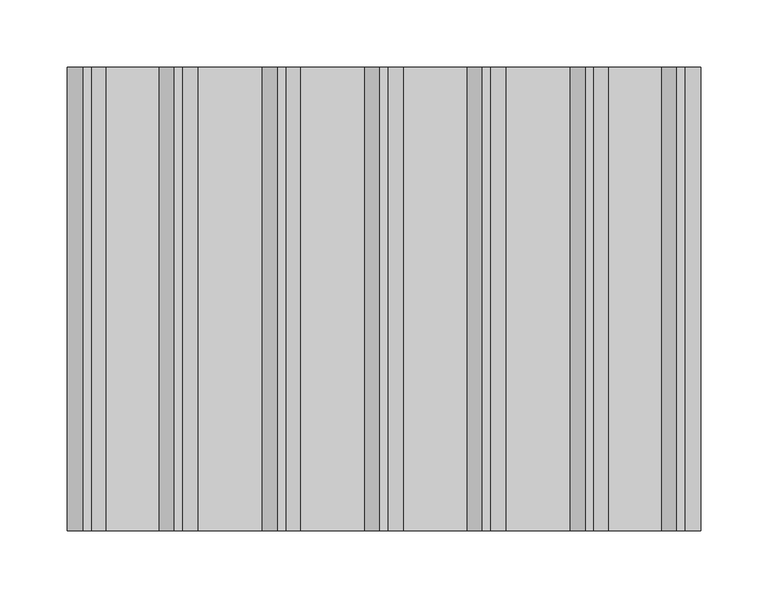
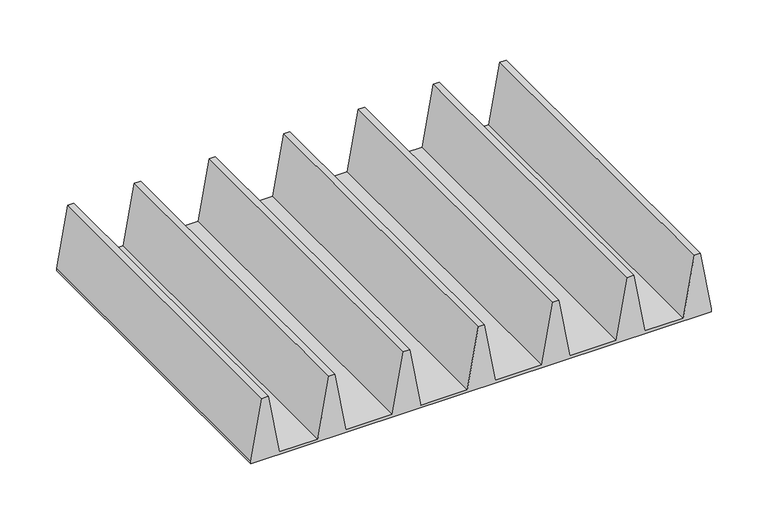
"""IFC4 building model written with IfcOpenShell, lengths in millimetres: furniture geometry."""

import ifcopenshell
import ifcopenshell.guid

model = None  # the IFC model being written
_history = None  # IfcOwnerHistory: only IFC2X3 demands one
_inside = {}  # id of a spatial element -> (the spatial element, [elements in it])
_under = {}  # id of a project, library or spatial element -> (it, [spatial elements below it])
_declared = {}  # id of a project -> (the project, [libraries it declares])
_typed = {}  # id of a type object -> (the type object, [elements of that type])
_made_of = {}  # id of a material, layer set ... -> (it, [elements and type objects made of it])


def new_model(schema):
    """Start an empty IFC model of exactly this schema.

    Asked for "IFC4X3", IfcOpenShell would pick the latest addendum, in which some entities
    have other attributes; the version numbers below select the first issue.
    IFC2X3 requires an IfcOwnerHistory on every rooted entity: one is made here for all.
    """
    global model, _history
    if schema == "IFC4X3":
        model = ifcopenshell.file(schema_version=(4, 3, 0, 0))
    else:
        model = ifcopenshell.file(schema=schema)
    _inside.clear()
    _under.clear()
    _declared.clear()
    _typed.clear()
    _made_of.clear()
    _history = None
    if model.schema == "IFC2X3":
        org = make("IfcOrganization", Name="unknown")
        user = make(
            "IfcPersonAndOrganization",
            ThePerson=make("IfcPerson", FamilyName="unknown"),
            TheOrganization=org,
        )
        app = make(
            "IfcApplication",
            ApplicationDeveloper=org,
            Version="unknown",
            ApplicationFullName="unknown",
            ApplicationIdentifier="unknown",
        )
        _history = make(
            "IfcOwnerHistory",
            OwningUser=user,
            OwningApplication=app,
            ChangeAction="ADDED",
            CreationDate=0,
        )
    return model


def make(cls, **values):
    """One entity of the class cls with the attributes given. An attribute that is None is left unset."""
    return model.create_entity(
        cls, **{name: value for name, value in values.items() if value is not None}
    )


def rooted(cls, **values):
    """An entity with a GlobalId (a new one), such as an element, a storey or a relation."""
    return make(cls, GlobalId=ifcopenshell.guid.new(), OwnerHistory=_history, **values)


def si_unit(unit_type, name, prefix=None):
    """IfcSIUnit, for example si_unit("LENGTHUNIT", "METRE", prefix="MILLI")."""
    return make("IfcSIUnit", UnitType=unit_type, Prefix=prefix, Name=name)


def assignment(units):
    """IfcUnitAssignment: the units of a project."""
    return None if units is None else make("IfcUnitAssignment", Units=units)


def point(xyz):
    """IfcCartesianPoint."""
    return None if xyz is None else make("IfcCartesianPoint", Coordinates=xyz)


def direction(xyz):
    """IfcDirection."""
    return None if xyz is None else make("IfcDirection", DirectionRatios=xyz)


def frame(location, z_axis=None, x_axis=None):
    """IfcAxis2Placement3D, a coordinate frame: its origin and axes. An axis left out is left unset."""
    return make(
        "IfcAxis2Placement3D",
        Location=point(location),
        Axis=direction(z_axis),
        RefDirection=direction(x_axis),
    )


def origin():
    """The frame at (0, 0, 0) with its axes left unset."""
    return frame((0.0, 0.0, 0.0))


def place(relative_to, where):
    """IfcLocalPlacement: puts the frame where relative to a parent placement (None: the world)."""
    return make(
        "IfcLocalPlacement", PlacementRelTo=relative_to, RelativePlacement=where
    )


def context(
    kind, dimensions, precision=None, world=None, true_north=None, identifier=None
):
    """IfcGeometricRepresentationContext, for example the 3D "Model" context."""
    return make(
        "IfcGeometricRepresentationContext",
        ContextIdentifier=identifier,
        ContextType=kind,
        CoordinateSpaceDimension=dimensions,
        Precision=precision,
        WorldCoordinateSystem=world,
        TrueNorth=true_north,
    )


def project(units=None, contexts=None):
    """IfcProject with its units and contexts."""
    return rooted(
        "IfcProject",
        Name="project",
        RepresentationContexts=contexts,
        UnitsInContext=assignment(units),
    )


def spatial(cls, under=None, at=None, **own):
    """A site, building, storey or space (cls), placed at a placement, below another one or the project."""
    s = rooted(cls, ObjectPlacement=at, **own)
    if under is not None:
        _under.setdefault(under.id(), (under, []))[1].append(s)
    return s


def polyline(points):
    """IfcPolyline through the points."""
    return make("IfcPolyline", Points=[point(p) for p in points])


def outline(outer, holes=None, kind="AREA"):
    """IfcArbitraryClosedProfileDef: a profile drawn as a closed curve; with holes, ...WithVoids."""
    if holes is None:
        return make("IfcArbitraryClosedProfileDef", ProfileType=kind, OuterCurve=outer)
    return make(
        "IfcArbitraryProfileDefWithVoids",
        ProfileType=kind,
        OuterCurve=outer,
        InnerCurves=holes,
    )


def extrude(swept, where, along, depth):
    """IfcExtrudedAreaSolid: the profile swept, set in the frame where, extruded along a direction by depth."""
    return make(
        "IfcExtrudedAreaSolid",
        SweptArea=swept,
        Position=where,
        ExtrudedDirection=direction(along),
        Depth=depth,
    )


def shape(context_of_items, identifier, shape_type, items):
    """IfcShapeRepresentation: the items that make up one representation, for example the "Body"."""
    return make(
        "IfcShapeRepresentation",
        ContextOfItems=context_of_items,
        RepresentationIdentifier=identifier,
        RepresentationType=shape_type,
        Items=items,
    )


def source(mapping_origin, context_of_items, identifier, shape_type, items):
    """IfcRepresentationMap: a shape defined once, which mapped items show again and again."""
    return make(
        "IfcRepresentationMap",
        MappingOrigin=mapping_origin,
        MappedRepresentation=shape(context_of_items, identifier, shape_type, items),
    )


def transform(
    local_origin,
    x_axis=None,
    y_axis=None,
    z_axis=None,
    scale=None,
    scale2=None,
    scale3=None,
    uniform=True,
):
    """IfcCartesianTransformationOperator3D, or its non-uniform kind. x_axis, y_axis, z_axis: its Axis1, 2, 3."""
    if uniform:
        return make(
            "IfcCartesianTransformationOperator3D",
            Axis1=direction(x_axis),
            Axis2=direction(y_axis),
            LocalOrigin=point(local_origin),
            Scale=scale,
            Axis3=direction(z_axis),
        )
    return make(
        "IfcCartesianTransformationOperator3DnonUniform",
        Axis1=direction(x_axis),
        Axis2=direction(y_axis),
        LocalOrigin=point(local_origin),
        Scale=scale,
        Axis3=direction(z_axis),
        Scale2=scale2,
        Scale3=scale3,
    )


def mapped(mapping_source, mapping_target):
    """IfcMappedItem: shows the shape of a source again, moved by a transform."""
    return make(
        "IfcMappedItem", MappingSource=mapping_source, MappingTarget=mapping_target
    )


def made_of(thing, what):
    """Note that an element or type object is made of a material, layer set ...; save() writes the relation."""
    if what is not None:
        _made_of.setdefault(what.id(), (what, []))[1].append(thing)
    return thing


def element(
    cls,
    number,
    at=None,
    inside=None,
    cuts=None,
    type_object=None,
    material=None,
    context=None,
    identifier="Body",
    shape_type=None,
    held_by="IfcProductDefinitionShape",
    body=None,
    shapes=None,
    **own,
):
    """One element of the class cls, such as IfcWall. Its Tag is "e" and its number.

    at: its placement. inside: the storey or other place that contains it. cuts: it is an
    opening in that element (IfcRelVoidsElement). A single representation is given by context,
    identifier, shape_type and body (its items); several are given by shapes. held_by: the class
    of the entity that holds the representations. save() writes the other relations.
    """
    e = rooted(cls, Tag="e%d" % number, ObjectPlacement=at, **own)
    if body is not None:
        shapes = [shape(context, identifier, shape_type, body)]
    if shapes is not None:
        e.Representation = make(held_by, Representations=shapes)
    if inside is not None:
        _inside.setdefault(inside.id(), (inside, []))[1].append(e)
    if cuts is not None:
        rooted(
            "IfcRelVoidsElement", RelatingBuildingElement=cuts, RelatedOpeningElement=e
        )
    if type_object is not None:
        _typed.setdefault(type_object.id(), (type_object, []))[1].append(e)
    return made_of(e, material)


def aggregate(whole, parts):
    """IfcRelAggregates: a whole, such as a stair, and the parts it consists of."""
    return rooted("IfcRelAggregates", RelatingObject=whole, RelatedObjects=parts)


def save(model, path):
    """Write the relations noted so far, then the file.

    IfcRelAggregates (storeys below a building ...), IfcRelContainedInSpatialStructure (elements
    in a storey), IfcRelDefinesByType, IfcRelAssociatesMaterial and IfcRelDeclares: one each for
    every whole, place, type object, material and project.
    """
    for whole, parts in _under.values():
        aggregate(whole, parts)
    for where, things in _inside.values():
        rooted(
            "IfcRelContainedInSpatialStructure",
            RelatedElements=things,
            RelatingStructure=where,
        )
    for kind, things in _typed.values():
        rooted("IfcRelDefinesByType", RelatedObjects=things, RelatingType=kind)
    for what, things in _made_of.values():
        rooted("IfcRelAssociatesMaterial", RelatedObjects=things, RelatingMaterial=what)
    for by, libraries in _declared.values():
        rooted("IfcRelDeclares", RelatingContext=by, RelatedDefinitions=libraries)
    model.write(path)


def furniture_9b68d01d(model_context):
    return source(origin(), model_context, "Body", "SweptSolid", [
        extrude(outline(polyline([(1073.0507812, -234.8826517), (1073.0507812, 235.0173483), (1076.0769531, 235.0173483), (1139.7257813, 223.7943426), (1139.7257813, 217.4443426), (1076.0769531, 206.221337), (1076.0769531, 166.865354), (1139.7257813, 155.6423483), (1139.7257813, 149.2923483), (1076.0769531, 138.0693426), (1076.0769531, 90.665354), (1139.7257813, 79.4423483), (1139.7257813, 73.0923483), (1076.0769531, 61.8693426), (1076.0769531, 14.465354), (1139.7257813, 3.2423483), (1139.7257813, -3.1076517), (1076.0769531, -14.3306574), (1076.0769531, -61.734646), (1139.7257813, -72.9576517), (1139.7257813, -79.3076517), (1076.0769531, -90.5306574), (1076.0769531, -137.934646), (1139.7257813, -149.1576517), (1139.7257813, -155.5076517), (1076.0769531, -166.7306574), (1076.0769531, -206.0866403), (1139.7257813, -217.309646), (1139.7257813, -223.659646), (1076.0769531, -234.8826517), (1073.0507812, -234.8826517)])), frame((0.0, -171.831, 0.0), z_axis=(0.0, 1.0, 0.0), x_axis=(0.0, 0.0, 1.0)), (0.0, 0.0, 1.0), 343.662),
    ])


if __name__ == "__main__":
    model = new_model("IFC4")
    model_context = context("Model", 3, world=origin())
    ifc_project = project(units=[si_unit("LENGTHUNIT", "METRE", prefix="MILLI")], contexts=[model_context])
    site = spatial("IfcSite", under=ifc_project)
    building = spatial("IfcBuilding", under=site)
    placement = place(None, origin())
    furniture_shape = furniture_9b68d01d(model_context)
    element("IfcFurniture", 1, ObjectType="HermanMiller_CoStruc_CO242_Subdivider Vane : 2 5/8\"Hx13 3/4\"D x 18 1/2\"W", at=placement, inside=building, context=model_context, shape_type="MappedRepresentation", body=[
        mapped(furniture_shape, transform((0.0, 0.0, 0.0), x_axis=(1.0, 0.0, 0.0), y_axis=(0.0, 1.0, 0.0), z_axis=(0.0, 0.0, 1.0))),
    ])
    save(model, "model.ifc")
